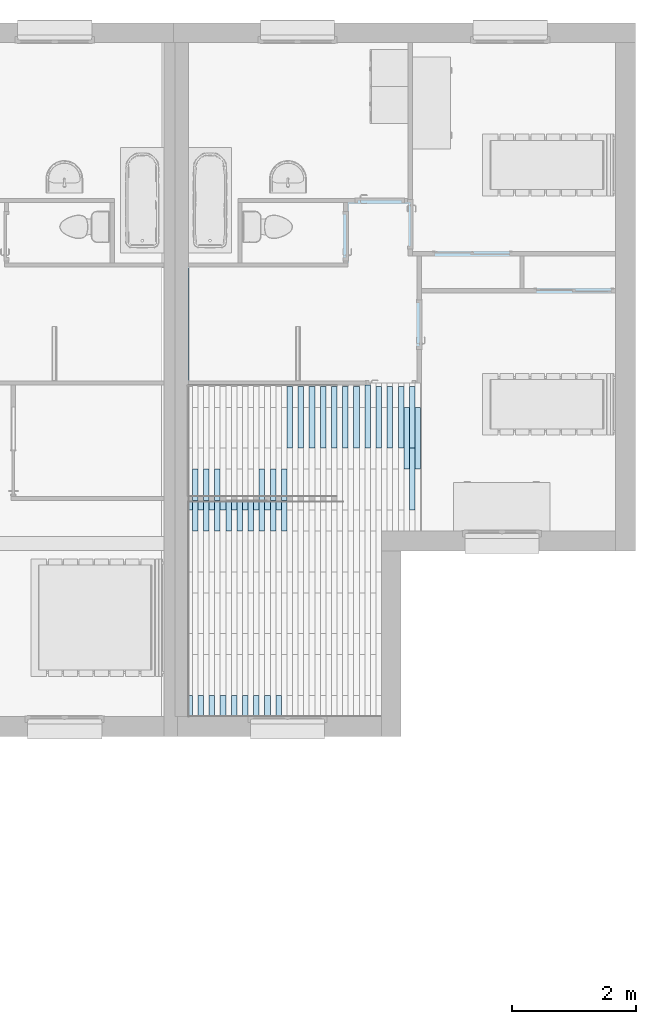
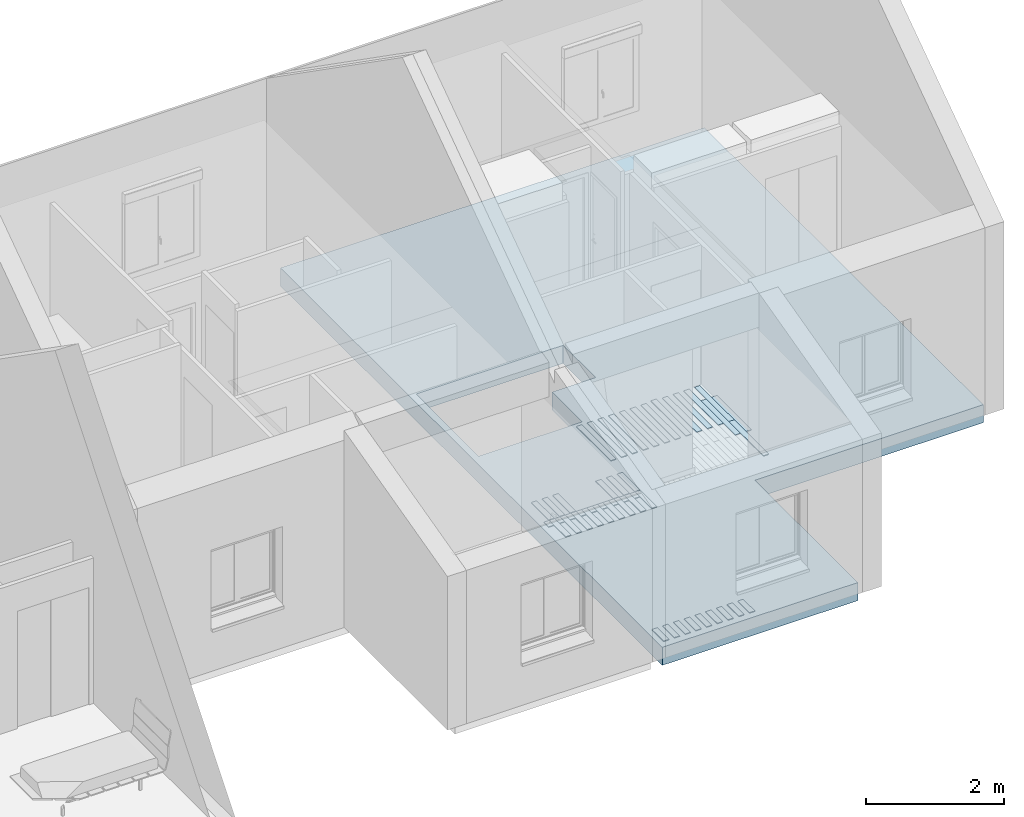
# One storey, part 4 of 50: 49 slabs, 1 opening.
"""IFC2X3 building model written with IfcOpenShell, lengths in metres."""

from ifc_helpers import new_model, entity, si_unit, converted_unit, derived_unit, direction, frame, frame_2d, origin, place, context, subcontext, project, spatial, polyline, rectangle, outline, extrude, material, layer, layer_set, layer_usage, element, save


model = new_model("IFC2X3")

# Units and contexts
model_context = context("Model", 3, precision=1e-05, world=origin(), true_north=direction((6.12303176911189e-17, 1.0)))
context_of_model = context(None, 3, precision=1e-05, world=origin(), true_north=direction((6.12303176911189e-17, 1.0)))
body_context = subcontext(model_context, "Body", "Model", "MODEL_VIEW")
ifc_project = project(units=[si_unit("LENGTHUNIT", "METRE"), si_unit("AREAUNIT", "SQUARE_METRE"), si_unit("VOLUMEUNIT", "CUBIC_METRE"), converted_unit("PLANEANGLEUNIT", "DEGREE", entity("IfcRatioMeasure", 0.0174532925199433), si_unit("PLANEANGLEUNIT", "RADIAN"), dimensions=[0, 0, 0, 0, 0, 0, 0]), si_unit("MASSUNIT", "GRAM", prefix="KILO"), si_unit("TIMEUNIT", "SECOND"), si_unit("FREQUENCYUNIT", "HERTZ"), si_unit("THERMODYNAMICTEMPERATUREUNIT", "DEGREE_CELSIUS"), derived_unit("THERMALTRANSMITTANCEUNIT", [(si_unit("MASSUNIT", "GRAM", prefix="KILO"), 1), (si_unit("THERMODYNAMICTEMPERATUREUNIT", "KELVIN"), -1), (si_unit("TIMEUNIT", "SECOND"), -3)]), derived_unit("VOLUMETRICFLOWRATEUNIT", [(si_unit("LENGTHUNIT", "METRE"), 3), (si_unit("TIMEUNIT", "SECOND"), -1)]), si_unit("ELECTRICCURRENTUNIT", "AMPERE"), si_unit("ELECTRICVOLTAGEUNIT", "VOLT"), si_unit("POWERUNIT", "WATT"), si_unit("FORCEUNIT", "NEWTON", prefix="KILO"), si_unit("ILLUMINANCEUNIT", "LUX"), si_unit("LUMINOUSFLUXUNIT", "LUMEN"), si_unit("LUMINOUSINTENSITYUNIT", "CANDELA"), si_unit("PRESSUREUNIT", "PASCAL")], contexts=[model_context, context_of_model])

# Site, building, storey
site_placement = place(None, origin())
site = spatial("IfcSite", under=ifc_project, at=site_placement, Name="Surface", CompositionType="ELEMENT")
building_placement = place(site_placement, origin())
building = spatial("IfcBuilding", under=site, at=building_placement, CompositionType="ELEMENT")
storey_placement = place(building_placement, frame((0.0, 0.0, 2.82)))
storey = spatial("IfcBuildingStorey", under=building, at=storey_placement, Name="ETAGE", CompositionType="ELEMENT", Elevation=2.82)

# Slab, opening
ifc_material_1 = material(Name="Béton")
ifc_layer_1 = layer(ifc_material_1, 0.2)
ifc_material_2 = material(Name="Isolant")
ifc_layer_2 = layer(ifc_material_2, 0.1)
ifc_material_3 = material(Name="Plastique - Blanc")
ifc_layer_3 = layer(ifc_material_3, 0.02)
ifc_layer_set_1 = layer_set([ifc_layer_1, ifc_layer_2, ifc_layer_3], Name="Sol:Dalle Béton - 20 cm  + FAUX PLAFOND")
ifc_layer_usage_1 = layer_usage(ifc_layer_set_1, "AXIS3", "POSITIVE", 0.0)
slab_1_placement = place(storey_placement, frame((83.8267857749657, 81.1575239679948, -0.3)))
slab_1 = element("IfcSlab", 1, at=slab_1_placement, inside=storey, material=ifc_layer_usage_1, Name="Sol:Dalle Béton - 20 cm  + FAUX PLAFOND", ObjectType="Sol:Dalle Béton - 20 cm  + FAUX PLAFOND", PredefinedType="FLOOR", context=body_context, shape_type="SweptSolid", body=[
    extrude(outline(polyline([(-3.55413147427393, 5.545), (-3.55413147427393, -5.545), (-0.274131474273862, -5.54499999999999), (-0.274131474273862, -2.55499999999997), (3.55413147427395, -2.55499999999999), (3.55413147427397, 5.545), (-3.55413147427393, 5.545)])), frame((3.55413147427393, 5.545, 0.32)), (0.0, 0.0, -1.0), 0.32),
])
opening_placement = place(storey_placement, frame((83.8267857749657, 81.1575239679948, -0.3)))
element("IfcOpeningElement", 2, at=opening_placement, cuts=slab_1, ObjectType="Opening", context=body_context, shape_type="SweptSolid", body=[
    extrude(outline(polyline([(3.44496571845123, 1.7966805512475), (0.977465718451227, 1.7966805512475), (0.977465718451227, 0.852480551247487), (1.70746571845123, 0.852480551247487), (1.70746571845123, -0.0199999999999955), (3.44496571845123, -0.0199999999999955), (3.44496571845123, 1.7966805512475)])), frame((3.55413147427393, 5.545, 0.32), z_axis=(0.0, 0.0, -1.0), x_axis=(-1.0, 0.0, 0.0)), (0.0, 0.0, 1.0), 0.32),
])

# Slabs
ifc_material_4 = material(Name="PARQUET BAMBOU")
ifc_layer_4 = layer(ifc_material_4, 0.01)
ifc_layer_set_2 = layer_set([ifc_layer_4], Name="Sol:LAME DE BAMBOU")
ifc_layer_usage_2 = layer_usage(ifc_layer_set_2, "AXIS3", "POSITIVE", 0.0)
slab_2_placement = place(storey_placement, origin())
element("IfcSlab", 3, at=slab_2_placement, inside=storey, material=ifc_layer_usage_2, Name="Sol:LAME DE BAMBOU", ObjectType="Sol:LAME DE BAMBOU", PredefinedType="FLOOR", context=body_context, shape_type="SweptSolid", body=[
    extrude(rectangle(XDim=0.479580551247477, YDim=0.0899999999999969, at=frame_2d((8.65973959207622e-15, 8.66320903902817e-15), x_axis=(1.0, 0.0))), frame((84.0360898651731, 84.4873142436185, 0.05), z_axis=(0.0, 0.0, -1.0), x_axis=(0.0, 1.0, 0.0)), (0.0, 0.0, 1.0), 0.00999999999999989),
])
ifc_layer_usage_3 = layer_usage(ifc_layer_set_2, "AXIS3", "POSITIVE", 0.0)
slab_3_placement = place(storey_placement, origin())
element("IfcSlab", 4, at=slab_3_placement, inside=storey, material=ifc_layer_usage_3, Name="Sol:LAME DE BAMBOU", ObjectType="Sol:LAME DE BAMBOU", PredefinedType="FLOOR", context=body_context, shape_type="SweptSolid", body=[
    extrude(rectangle(XDim=0.339999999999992, YDim=0.0899999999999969, at=frame_2d((0.0, 8.66320903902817e-15), x_axis=(1.0, 0.0))), frame((84.1260898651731, 81.4175239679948, 0.05), z_axis=(0.0, 0.0, -1.0), x_axis=(0.0, 1.0, 0.0)), (0.0, 0.0, 1.0), 0.00999999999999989),
])
ifc_layer_usage_4 = layer_usage(ifc_layer_set_2, "AXIS3", "POSITIVE", 0.0)
slab_4_placement = place(storey_placement, origin())
element("IfcSlab", 5, at=slab_4_placement, inside=storey, material=ifc_layer_usage_4, Name="Sol:LAME DE BAMBOU", ObjectType="Sol:LAME DE BAMBOU", PredefinedType="FLOOR", context=body_context, shape_type="SweptSolid", body=[
    extrude(rectangle(XDim=0.139570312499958, YDim=0.0899999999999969, at=frame_2d((8.65973959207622e-15, 8.66320903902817e-15), x_axis=(1.0, 0.0))), frame((84.1260898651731, 84.6573091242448, 0.05), z_axis=(0.0, 0.0, -1.0), x_axis=(0.0, 1.0, 0.0)), (0.0, 0.0, 1.0), 0.00999999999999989),
])
ifc_layer_usage_5 = layer_usage(ifc_layer_set_2, "AXIS3", "POSITIVE", 0.0)
slab_5_placement = place(storey_placement, origin())
element("IfcSlab", 6, at=slab_5_placement, inside=storey, material=ifc_layer_usage_5, Name="Sol:LAME DE BAMBOU", ObjectType="Sol:LAME DE BAMBOU", PredefinedType="FLOOR", context=body_context, shape_type="SweptSolid", body=[
    extrude(rectangle(XDim=0.479580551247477, YDim=0.0899999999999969, at=frame_2d((8.65973959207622e-15, -8.66320903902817e-15), x_axis=(1.0, 0.0))), frame((84.2160898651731, 84.4873142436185, 0.05), z_axis=(0.0, 0.0, -1.0), x_axis=(0.0, 1.0, 0.0)), (0.0, 0.0, 1.0), 0.00999999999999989),
])
ifc_layer_usage_6 = layer_usage(ifc_layer_set_2, "AXIS3", "POSITIVE", 0.0)
slab_6_placement = place(storey_placement, origin())
element("IfcSlab", 7, at=slab_6_placement, inside=storey, material=ifc_layer_usage_6, Name="Sol:LAME DE BAMBOU", ObjectType="Sol:LAME DE BAMBOU", PredefinedType="FLOOR", context=body_context, shape_type="SweptSolid", body=[
    extrude(rectangle(XDim=0.339999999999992, YDim=0.0899999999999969, at=frame_2d((0.0, 8.66320903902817e-15), x_axis=(1.0, 0.0))), frame((84.3060898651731, 81.4175239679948, 0.05), z_axis=(0.0, 0.0, -1.0), x_axis=(0.0, 1.0, 0.0)), (0.0, 0.0, 1.0), 0.00999999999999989),
])
ifc_layer_usage_7 = layer_usage(ifc_layer_set_2, "AXIS3", "POSITIVE", 0.0)
slab_7_placement = place(storey_placement, origin())
element("IfcSlab", 8, at=slab_7_placement, inside=storey, material=ifc_layer_usage_7, Name="Sol:LAME DE BAMBOU", ObjectType="Sol:LAME DE BAMBOU", PredefinedType="FLOOR", context=body_context, shape_type="SweptSolid", body=[
    extrude(rectangle(XDim=0.139570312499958, YDim=0.0899999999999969, at=frame_2d((8.65973959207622e-15, 8.66320903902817e-15), x_axis=(1.0, 0.0))), frame((84.3060898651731, 84.6573091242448, 0.05), z_axis=(0.0, 0.0, -1.0), x_axis=(0.0, 1.0, 0.0)), (0.0, 0.0, 1.0), 0.00999999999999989),
])
ifc_layer_usage_8 = layer_usage(ifc_layer_set_2, "AXIS3", "POSITIVE", 0.0)
slab_8_placement = place(storey_placement, origin())
element("IfcSlab", 9, at=slab_8_placement, inside=storey, material=ifc_layer_usage_8, Name="Sol:LAME DE BAMBOU", ObjectType="Sol:LAME DE BAMBOU", PredefinedType="FLOOR", context=body_context, shape_type="SweptSolid", body=[
    extrude(rectangle(XDim=0.479580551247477, YDim=0.0899999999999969, at=frame_2d((8.65973959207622e-15, 8.66320903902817e-15), x_axis=(1.0, 0.0))), frame((84.3960898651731, 84.4873142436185, 0.05), z_axis=(0.0, 0.0, -1.0), x_axis=(0.0, 1.0, 0.0)), (0.0, 0.0, 1.0), 0.00999999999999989),
])
ifc_layer_usage_9 = layer_usage(ifc_layer_set_2, "AXIS3", "POSITIVE", 0.0)
slab_9_placement = place(storey_placement, origin())
element("IfcSlab", 10, at=slab_9_placement, inside=storey, material=ifc_layer_usage_9, Name="Sol:LAME DE BAMBOU", ObjectType="Sol:LAME DE BAMBOU", PredefinedType="FLOOR", context=body_context, shape_type="SweptSolid", body=[
    extrude(rectangle(XDim=0.339999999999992, YDim=0.0899999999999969, at=frame_2d((0.0, 8.66320903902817e-15), x_axis=(1.0, 0.0))), frame((84.4860898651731, 81.4175239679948, 0.05), z_axis=(0.0, 0.0, -1.0), x_axis=(0.0, 1.0, 0.0)), (0.0, 0.0, 1.0), 0.00999999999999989),
])
ifc_layer_usage_10 = layer_usage(ifc_layer_set_2, "AXIS3", "POSITIVE", 0.0)
slab_10_placement = place(storey_placement, origin())
element("IfcSlab", 11, at=slab_10_placement, inside=storey, material=ifc_layer_usage_10, Name="Sol:LAME DE BAMBOU", ObjectType="Sol:LAME DE BAMBOU", PredefinedType="FLOOR", context=body_context, shape_type="SweptSolid", body=[
    extrude(rectangle(XDim=0.139570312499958, YDim=0.0899999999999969, at=frame_2d((8.65973959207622e-15, 8.66320903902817e-15), x_axis=(1.0, 0.0))), frame((84.4860898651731, 84.6573091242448, 0.05), z_axis=(0.0, 0.0, -1.0), x_axis=(0.0, 1.0, 0.0)), (0.0, 0.0, 1.0), 0.00999999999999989),
])
ifc_layer_usage_11 = layer_usage(ifc_layer_set_2, "AXIS3", "POSITIVE", 0.0)
slab_11_placement = place(storey_placement, origin())
element("IfcSlab", 12, at=slab_11_placement, inside=storey, material=ifc_layer_usage_11, Name="Sol:LAME DE BAMBOU", ObjectType="Sol:LAME DE BAMBOU", PredefinedType="FLOOR", context=body_context, shape_type="SweptSolid", body=[
    extrude(rectangle(XDim=0.479580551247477, YDim=0.0899999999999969, at=frame_2d((8.65973959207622e-15, -8.66320903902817e-15), x_axis=(1.0, 0.0))), frame((84.5760898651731, 84.4873142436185, 0.05), z_axis=(0.0, 0.0, -1.0), x_axis=(0.0, 1.0, 0.0)), (0.0, 0.0, 1.0), 0.00999999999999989),
])
ifc_layer_usage_12 = layer_usage(ifc_layer_set_2, "AXIS3", "POSITIVE", 0.0)
slab_12_placement = place(storey_placement, origin())
element("IfcSlab", 13, at=slab_12_placement, inside=storey, material=ifc_layer_usage_12, Name="Sol:LAME DE BAMBOU", ObjectType="Sol:LAME DE BAMBOU", PredefinedType="FLOOR", context=body_context, shape_type="SweptSolid", body=[
    extrude(rectangle(XDim=0.339999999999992, YDim=0.0899999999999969, at=frame_2d((0.0, 8.66320903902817e-15), x_axis=(1.0, 0.0))), frame((84.6660898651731, 81.4175239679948, 0.05), z_axis=(0.0, 0.0, -1.0), x_axis=(0.0, 1.0, 0.0)), (0.0, 0.0, 1.0), 0.00999999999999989),
])
ifc_layer_usage_13 = layer_usage(ifc_layer_set_2, "AXIS3", "POSITIVE", 0.0)
slab_13_placement = place(storey_placement, origin())
element("IfcSlab", 14, at=slab_13_placement, inside=storey, material=ifc_layer_usage_13, Name="Sol:LAME DE BAMBOU", ObjectType="Sol:LAME DE BAMBOU", PredefinedType="FLOOR", context=body_context, shape_type="SweptSolid", body=[
    extrude(rectangle(XDim=0.139570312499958, YDim=0.0899999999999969, at=frame_2d((8.65973959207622e-15, 8.66320903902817e-15), x_axis=(1.0, 0.0))), frame((84.6660898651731, 84.6573091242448, 0.05), z_axis=(0.0, 0.0, -1.0), x_axis=(0.0, 1.0, 0.0)), (0.0, 0.0, 1.0), 0.00999999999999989),
])
ifc_layer_usage_14 = layer_usage(ifc_layer_set_2, "AXIS3", "POSITIVE", 0.0)
slab_14_placement = place(storey_placement, origin())
element("IfcSlab", 15, at=slab_14_placement, inside=storey, material=ifc_layer_usage_14, Name="Sol:LAME DE BAMBOU", ObjectType="Sol:LAME DE BAMBOU", PredefinedType="FLOOR", context=body_context, shape_type="SweptSolid", body=[
    extrude(rectangle(XDim=0.479580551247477, YDim=0.0899999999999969, at=frame_2d((8.65973959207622e-15, 8.66320903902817e-15), x_axis=(1.0, 0.0))), frame((84.7560898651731, 84.4873142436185, 0.05), z_axis=(0.0, 0.0, -1.0), x_axis=(0.0, 1.0, 0.0)), (0.0, 0.0, 1.0), 0.00999999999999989),
])
ifc_layer_usage_15 = layer_usage(ifc_layer_set_2, "AXIS3", "POSITIVE", 0.0)
slab_15_placement = place(storey_placement, origin())
element("IfcSlab", 16, at=slab_15_placement, inside=storey, material=ifc_layer_usage_15, Name="Sol:LAME DE BAMBOU", ObjectType="Sol:LAME DE BAMBOU", PredefinedType="FLOOR", context=body_context, shape_type="SweptSolid", body=[
    extrude(rectangle(XDim=0.339999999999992, YDim=0.0899999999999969, at=frame_2d((0.0, 8.66320903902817e-15), x_axis=(1.0, 0.0))), frame((84.8460898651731, 81.4175239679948, 0.05), z_axis=(0.0, 0.0, -1.0), x_axis=(0.0, 1.0, 0.0)), (0.0, 0.0, 1.0), 0.00999999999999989),
])
ifc_layer_usage_16 = layer_usage(ifc_layer_set_2, "AXIS3", "POSITIVE", 0.0)
slab_16_placement = place(storey_placement, origin())
element("IfcSlab", 17, at=slab_16_placement, inside=storey, material=ifc_layer_usage_16, Name="Sol:LAME DE BAMBOU", ObjectType="Sol:LAME DE BAMBOU", PredefinedType="FLOOR", context=body_context, shape_type="SweptSolid", body=[
    extrude(rectangle(XDim=0.139570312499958, YDim=0.0899999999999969, at=frame_2d((8.65973959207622e-15, 8.66320903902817e-15), x_axis=(1.0, 0.0))), frame((84.8460898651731, 84.6573091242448, 0.05), z_axis=(0.0, 0.0, -1.0), x_axis=(0.0, 1.0, 0.0)), (0.0, 0.0, 1.0), 0.00999999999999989),
])
ifc_layer_usage_17 = layer_usage(ifc_layer_set_2, "AXIS3", "POSITIVE", 0.0)
slab_17_placement = place(storey_placement, origin())
element("IfcSlab", 18, at=slab_17_placement, inside=storey, material=ifc_layer_usage_17, Name="Sol:LAME DE BAMBOU", ObjectType="Sol:LAME DE BAMBOU", PredefinedType="FLOOR", context=body_context, shape_type="SweptSolid", body=[
    extrude(rectangle(XDim=0.479580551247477, YDim=0.0899999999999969, at=frame_2d((8.65973959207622e-15, -8.66320903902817e-15), x_axis=(1.0, 0.0))), frame((84.9360898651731, 84.4873142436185, 0.05), z_axis=(0.0, 0.0, -1.0), x_axis=(0.0, 1.0, 0.0)), (0.0, 0.0, 1.0), 0.00999999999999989),
])
ifc_layer_usage_18 = layer_usage(ifc_layer_set_2, "AXIS3", "POSITIVE", 0.0)
slab_18_placement = place(storey_placement, origin())
element("IfcSlab", 19, at=slab_18_placement, inside=storey, material=ifc_layer_usage_18, Name="Sol:LAME DE BAMBOU", ObjectType="Sol:LAME DE BAMBOU", PredefinedType="FLOOR", context=body_context, shape_type="SweptSolid", body=[
    extrude(rectangle(XDim=0.339999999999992, YDim=0.0899999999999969, at=frame_2d((0.0, 8.66320903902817e-15), x_axis=(1.0, 0.0))), frame((85.026089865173, 81.4175239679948, 0.05), z_axis=(0.0, 0.0, -1.0), x_axis=(0.0, 1.0, 0.0)), (0.0, 0.0, 1.0), 0.00999999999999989),
])
ifc_layer_usage_19 = layer_usage(ifc_layer_set_2, "AXIS3", "POSITIVE", 0.0)
slab_19_placement = place(storey_placement, origin())
element("IfcSlab", 20, at=slab_19_placement, inside=storey, material=ifc_layer_usage_19, Name="Sol:LAME DE BAMBOU", ObjectType="Sol:LAME DE BAMBOU", PredefinedType="FLOOR", context=body_context, shape_type="SweptSolid", body=[
    extrude(rectangle(XDim=0.139570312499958, YDim=0.0899999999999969, at=frame_2d((8.65973959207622e-15, 8.66320903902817e-15), x_axis=(1.0, 0.0))), frame((85.026089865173, 84.6573091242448, 0.05), z_axis=(0.0, 0.0, -1.0), x_axis=(0.0, 1.0, 0.0)), (0.0, 0.0, 1.0), 0.00999999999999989),
])
ifc_layer_usage_20 = layer_usage(ifc_layer_set_2, "AXIS3", "POSITIVE", 0.0)
slab_20_placement = place(storey_placement, origin())
element("IfcSlab", 21, at=slab_20_placement, inside=storey, material=ifc_layer_usage_20, Name="Sol:LAME DE BAMBOU", ObjectType="Sol:LAME DE BAMBOU", PredefinedType="FLOOR", context=body_context, shape_type="SweptSolid", body=[
    extrude(rectangle(XDim=0.479580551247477, YDim=0.0899999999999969, at=frame_2d((8.65973959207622e-15, 8.66320903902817e-15), x_axis=(1.0, 0.0))), frame((85.116089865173, 84.4873142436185, 0.05), z_axis=(0.0, 0.0, -1.0), x_axis=(0.0, 1.0, 0.0)), (0.0, 0.0, 1.0), 0.00999999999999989),
])
ifc_layer_usage_21 = layer_usage(ifc_layer_set_2, "AXIS3", "POSITIVE", 0.0)
slab_21_placement = place(storey_placement, origin())
element("IfcSlab", 22, at=slab_21_placement, inside=storey, material=ifc_layer_usage_21, Name="Sol:LAME DE BAMBOU", ObjectType="Sol:LAME DE BAMBOU", PredefinedType="FLOOR", context=body_context, shape_type="SweptSolid", body=[
    extrude(rectangle(XDim=0.339999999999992, YDim=0.0899999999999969, at=frame_2d((0.0, 8.66320903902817e-15), x_axis=(1.0, 0.0))), frame((85.206089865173, 81.4175239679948, 0.05), z_axis=(0.0, 0.0, -1.0), x_axis=(0.0, 1.0, 0.0)), (0.0, 0.0, 1.0), 0.00999999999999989),
])
ifc_layer_usage_22 = layer_usage(ifc_layer_set_2, "AXIS3", "POSITIVE", 0.0)
slab_22_placement = place(storey_placement, origin())
element("IfcSlab", 23, at=slab_22_placement, inside=storey, material=ifc_layer_usage_22, Name="Sol:LAME DE BAMBOU", ObjectType="Sol:LAME DE BAMBOU", PredefinedType="FLOOR", context=body_context, shape_type="SweptSolid", body=[
    extrude(rectangle(XDim=0.139570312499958, YDim=0.0899999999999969, at=frame_2d((8.65973959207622e-15, 8.66320903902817e-15), x_axis=(1.0, 0.0))), frame((85.206089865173, 84.6573091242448, 0.05), z_axis=(0.0, 0.0, -1.0), x_axis=(0.0, 1.0, 0.0)), (0.0, 0.0, 1.0), 0.00999999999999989),
])
ifc_layer_usage_23 = layer_usage(ifc_layer_set_2, "AXIS3", "POSITIVE", 0.0)
slab_23_placement = place(storey_placement, origin())
element("IfcSlab", 24, at=slab_23_placement, inside=storey, material=ifc_layer_usage_23, Name="Sol:LAME DE BAMBOU", ObjectType="Sol:LAME DE BAMBOU", PredefinedType="FLOOR", context=body_context, shape_type="SweptSolid", body=[
    extrude(rectangle(XDim=0.479580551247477, YDim=0.0899999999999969, at=frame_2d((8.65973959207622e-15, -8.66320903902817e-15), x_axis=(1.0, 0.0))), frame((85.2960898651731, 84.4873142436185, 0.05), z_axis=(0.0, 0.0, -1.0), x_axis=(0.0, 1.0, 0.0)), (0.0, 0.0, 1.0), 0.00999999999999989),
])
ifc_layer_usage_24 = layer_usage(ifc_layer_set_2, "AXIS3", "POSITIVE", 0.0)
slab_24_placement = place(storey_placement, origin())
element("IfcSlab", 25, at=slab_24_placement, inside=storey, material=ifc_layer_usage_24, Name="Sol:LAME DE BAMBOU", ObjectType="Sol:LAME DE BAMBOU", PredefinedType="FLOOR", context=body_context, shape_type="SweptSolid", body=[
    extrude(rectangle(XDim=0.339999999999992, YDim=0.0899999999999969, at=frame_2d((0.0, 8.66320903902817e-15), x_axis=(1.0, 0.0))), frame((85.386089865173, 81.4175239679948, 0.05), z_axis=(0.0, 0.0, -1.0), x_axis=(0.0, 1.0, 0.0)), (0.0, 0.0, 1.0), 0.00999999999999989),
])
ifc_layer_usage_25 = layer_usage(ifc_layer_set_2, "AXIS3", "POSITIVE", 0.0)
slab_25_placement = place(storey_placement, origin())
element("IfcSlab", 26, at=slab_25_placement, inside=storey, material=ifc_layer_usage_25, Name="Sol:LAME DE BAMBOU", ObjectType="Sol:LAME DE BAMBOU", PredefinedType="FLOOR", context=body_context, shape_type="SweptSolid", body=[
    extrude(rectangle(XDim=0.139570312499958, YDim=0.0899999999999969, at=frame_2d((8.65973959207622e-15, 8.66320903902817e-15), x_axis=(1.0, 0.0))), frame((85.386089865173, 84.6573091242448, 0.05), z_axis=(0.0, 0.0, -1.0), x_axis=(0.0, 1.0, 0.0)), (0.0, 0.0, 1.0), 0.00999999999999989),
])
ifc_layer_usage_26 = layer_usage(ifc_layer_set_2, "AXIS3", "POSITIVE", 0.0)
slab_26_placement = place(storey_placement, origin())
element("IfcSlab", 27, at=slab_26_placement, inside=storey, material=ifc_layer_usage_26, Name="Sol:LAME DE BAMBOU", ObjectType="Sol:LAME DE BAMBOU", PredefinedType="FLOOR", context=body_context, shape_type="SweptSolid", body=[
    extrude(rectangle(XDim=0.479580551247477, YDim=0.0899999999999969, at=frame_2d((8.65973959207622e-15, 8.66320903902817e-15), x_axis=(1.0, 0.0))), frame((85.476089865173, 84.4873142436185, 0.05), z_axis=(0.0, 0.0, -1.0), x_axis=(0.0, 1.0, 0.0)), (0.0, 0.0, 1.0), 0.00999999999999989),
])
ifc_layer_usage_27 = layer_usage(ifc_layer_set_2, "AXIS3", "POSITIVE", 0.0)
slab_27_placement = place(storey_placement, origin())
element("IfcSlab", 28, at=slab_27_placement, inside=storey, material=ifc_layer_usage_27, Name="Sol:LAME DE BAMBOU", ObjectType="Sol:LAME DE BAMBOU", PredefinedType="FLOOR", context=body_context, shape_type="SweptSolid", body=[
    extrude(rectangle(XDim=0.999999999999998, YDim=0.0899999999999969, at=frame_2d((8.68749516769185e-15, 8.66320903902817e-15), x_axis=(1.0, 0.0))), frame((86.466089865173, 86.0875239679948, 0.05), z_axis=(0.0, 0.0, -1.0), x_axis=(0.0, 1.0, 0.0)), (0.0, 0.0, 1.0), 0.00999999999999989),
])
ifc_layer_usage_28 = layer_usage(ifc_layer_set_2, "AXIS3", "POSITIVE", 0.0)
slab_28_placement = place(storey_placement, origin())
element("IfcSlab", 29, at=slab_28_placement, inside=storey, material=ifc_layer_usage_28, Name="Sol:LAME DE BAMBOU", ObjectType="Sol:LAME DE BAMBOU", PredefinedType="FLOOR", context=body_context, shape_type="SweptSolid", body=[
    extrude(rectangle(XDim=0.999999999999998, YDim=0.0899999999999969, at=frame_2d((8.68749516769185e-15, 8.66320903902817e-15), x_axis=(1.0, 0.0))), frame((86.646089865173, 86.0875239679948, 0.05), z_axis=(0.0, 0.0, -1.0), x_axis=(0.0, 1.0, 0.0)), (0.0, 0.0, 1.0), 0.00999999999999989),
])
ifc_layer_usage_29 = layer_usage(ifc_layer_set_2, "AXIS3", "POSITIVE", 0.0)
slab_29_placement = place(storey_placement, origin())
element("IfcSlab", 30, at=slab_29_placement, inside=storey, material=ifc_layer_usage_29, Name="Sol:LAME DE BAMBOU", ObjectType="Sol:LAME DE BAMBOU", PredefinedType="FLOOR", context=body_context, shape_type="SweptSolid", body=[
    extrude(rectangle(XDim=1.01999999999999, YDim=0.0899999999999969, at=frame_2d((8.65973959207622e-15, 8.66320903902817e-15), x_axis=(1.0, 0.0))), frame((86.826089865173, 86.0975239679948, 0.05), z_axis=(0.0, 0.0, -1.0), x_axis=(0.0, 1.0, 0.0)), (0.0, 0.0, 1.0), 0.00999999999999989),
])
ifc_layer_usage_30 = layer_usage(ifc_layer_set_2, "AXIS3", "POSITIVE", 0.0)
slab_30_placement = place(storey_placement, origin())
element("IfcSlab", 31, at=slab_30_placement, inside=storey, material=ifc_layer_usage_30, Name="Sol:LAME DE BAMBOU", ObjectType="Sol:LAME DE BAMBOU", PredefinedType="FLOOR", context=body_context, shape_type="SweptSolid", body=[
    extrude(rectangle(XDim=0.999999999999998, YDim=0.0899999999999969, at=frame_2d((8.68749516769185e-15, 8.66320903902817e-15), x_axis=(1.0, 0.0))), frame((87.006089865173, 86.0875239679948, 0.05), z_axis=(0.0, 0.0, -1.0), x_axis=(0.0, 1.0, 0.0)), (0.0, 0.0, 1.0), 0.00999999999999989),
])
ifc_layer_usage_31 = layer_usage(ifc_layer_set_2, "AXIS3", "POSITIVE", 0.0)
slab_31_placement = place(storey_placement, origin())
element("IfcSlab", 32, at=slab_31_placement, inside=storey, material=ifc_layer_usage_31, Name="Sol:LAME DE BAMBOU", ObjectType="Sol:LAME DE BAMBOU", PredefinedType="FLOOR", context=body_context, shape_type="SweptSolid", body=[
    extrude(rectangle(XDim=0.999999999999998, YDim=0.0899999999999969, at=frame_2d((8.68749516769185e-15, 8.66320903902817e-15), x_axis=(1.0, 0.0))), frame((87.1861607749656, 86.0875239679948, 0.05), z_axis=(0.0, 0.0, -1.0), x_axis=(0.0, 1.0, 0.0)), (0.0, 0.0, 1.0), 0.00999999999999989),
])
ifc_layer_usage_32 = layer_usage(ifc_layer_set_2, "AXIS3", "POSITIVE", 0.0)
slab_32_placement = place(storey_placement, origin())
element("IfcSlab", 33, at=slab_32_placement, inside=storey, material=ifc_layer_usage_32, Name="Sol:LAME DE BAMBOU", ObjectType="Sol:LAME DE BAMBOU", PredefinedType="FLOOR", context=body_context, shape_type="SweptSolid", body=[
    extrude(rectangle(XDim=0.999999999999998, YDim=0.0899999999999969, at=frame_2d((8.68749516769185e-15, -8.66320903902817e-15), x_axis=(1.0, 0.0))), frame((87.3661607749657, 86.0875239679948, 0.05), z_axis=(0.0, 0.0, -1.0), x_axis=(0.0, 1.0, 0.0)), (0.0, 0.0, 1.0), 0.00999999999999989),
])
ifc_layer_usage_33 = layer_usage(ifc_layer_set_2, "AXIS3", "POSITIVE", 0.0)
slab_33_placement = place(storey_placement, origin())
element("IfcSlab", 34, at=slab_33_placement, inside=storey, material=ifc_layer_usage_33, Name="Sol:LAME DE BAMBOU", ObjectType="Sol:LAME DE BAMBOU", PredefinedType="FLOOR", context=body_context, shape_type="SweptSolid", body=[
    extrude(rectangle(XDim=0.999999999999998, YDim=0.0899999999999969, at=frame_2d((8.68749516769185e-15, 8.66320903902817e-15), x_axis=(1.0, 0.0))), frame((87.4561607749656, 85.7475239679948, 0.05), z_axis=(0.0, 0.0, -1.0), x_axis=(0.0, 1.0, 0.0)), (0.0, 0.0, 1.0), 0.00999999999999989),
])
ifc_layer_usage_34 = layer_usage(ifc_layer_set_2, "AXIS3", "POSITIVE", 0.0)
slab_34_placement = place(storey_placement, origin())
element("IfcSlab", 35, at=slab_34_placement, inside=storey, material=ifc_layer_usage_34, Name="Sol:LAME DE BAMBOU", ObjectType="Sol:LAME DE BAMBOU", PredefinedType="FLOOR", context=body_context, shape_type="SweptSolid", body=[
    extrude(rectangle(XDim=0.999999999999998, YDim=0.0899999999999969, at=frame_2d((-8.68749516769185e-15, 8.66320903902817e-15), x_axis=(1.0, 0.0))), frame((87.5461607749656, 85.0875239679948, 0.05), z_axis=(0.0, 0.0, -1.0), x_axis=(0.0, 1.0, 0.0)), (0.0, 0.0, 1.0), 0.00999999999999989),
])
ifc_layer_usage_35 = layer_usage(ifc_layer_set_2, "AXIS3", "POSITIVE", 0.0)
slab_35_placement = place(storey_placement, origin())
element("IfcSlab", 36, at=slab_35_placement, inside=storey, material=ifc_layer_usage_35, Name="Sol:LAME DE BAMBOU", ObjectType="Sol:LAME DE BAMBOU", PredefinedType="FLOOR", context=body_context, shape_type="SweptSolid", body=[
    extrude(rectangle(XDim=0.999999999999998, YDim=0.0899999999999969, at=frame_2d((8.68749516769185e-15, 8.66320903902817e-15), x_axis=(1.0, 0.0))), frame((87.5461607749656, 86.0875239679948, 0.05), z_axis=(0.0, 0.0, -1.0), x_axis=(0.0, 1.0, 0.0)), (0.0, 0.0, 1.0), 0.00999999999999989),
])
ifc_layer_usage_36 = layer_usage(ifc_layer_set_2, "AXIS3", "POSITIVE", 0.0)
slab_36_placement = place(storey_placement, origin())
element("IfcSlab", 37, at=slab_36_placement, inside=storey, material=ifc_layer_usage_36, Name="Sol:LAME DE BAMBOU", ObjectType="Sol:LAME DE BAMBOU", PredefinedType="FLOOR", context=body_context, shape_type="SweptSolid", body=[
    extrude(rectangle(XDim=0.999999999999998, YDim=0.0899999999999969, at=frame_2d((8.68749516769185e-15, 8.66320903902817e-15), x_axis=(1.0, 0.0))), frame((87.6361607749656, 85.7475239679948, 0.05), z_axis=(0.0, 0.0, -1.0), x_axis=(0.0, 1.0, 0.0)), (0.0, 0.0, 1.0), 0.00999999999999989),
])
ifc_layer_usage_37 = layer_usage(ifc_layer_set_2, "AXIS3", "POSITIVE", 0.0)
slab_37_placement = place(storey_placement, origin())
element("IfcSlab", 38, at=slab_37_placement, inside=storey, material=ifc_layer_usage_37, Name="Sol:LAME DE BAMBOU", ObjectType="Sol:LAME DE BAMBOU", PredefinedType="FLOOR", context=body_context, shape_type="SweptSolid", body=[
    extrude(rectangle(XDim=0.339999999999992, YDim=0.0899999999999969, at=frame_2d((0.0, 8.66320903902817e-15), x_axis=(1.0, 0.0))), frame((83.9460898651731, 81.4175239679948, 0.05), z_axis=(0.0, 0.0, -1.0), x_axis=(0.0, 1.0, 0.0)), (0.0, 0.0, 1.0), 0.00999999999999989),
])
ifc_layer_usage_38 = layer_usage(ifc_layer_set_2, "AXIS3", "POSITIVE", 0.0)
slab_38_placement = place(storey_placement, origin())
element("IfcSlab", 39, at=slab_38_placement, inside=storey, material=ifc_layer_usage_38, Name="Sol:LAME DE BAMBOU", ObjectType="Sol:LAME DE BAMBOU", PredefinedType="FLOOR", context=body_context, shape_type="SweptSolid", body=[
    extrude(rectangle(XDim=0.139570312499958, YDim=0.0899999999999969, at=frame_2d((8.65973959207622e-15, 8.66320903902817e-15), x_axis=(1.0, 0.0))), frame((83.9460898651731, 84.6573091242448, 0.05), z_axis=(0.0, 0.0, -1.0), x_axis=(0.0, 1.0, 0.0)), (0.0, 0.0, 1.0), 0.00999999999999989),
])
ifc_layer_usage_39 = layer_usage(ifc_layer_set_2, "AXIS3", "POSITIVE", 0.0)
slab_39_placement = place(storey_placement, origin())
element("IfcSlab", 40, at=slab_39_placement, inside=storey, material=ifc_layer_usage_39, Name="Sol:LAME DE BAMBOU", ObjectType="Sol:LAME DE BAMBOU", PredefinedType="FLOOR", context=body_context, shape_type="SweptSolid", body=[
    extrude(rectangle(XDim=0.999999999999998, YDim=0.0899999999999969, at=frame_2d((8.68749516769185e-15, 8.66320903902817e-15), x_axis=(1.0, 0.0))), frame((86.286089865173, 86.0875239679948, 0.05), z_axis=(0.0, 0.0, -1.0), x_axis=(0.0, 1.0, 0.0)), (0.0, 0.0, 1.0), 0.00999999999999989),
])
ifc_layer_usage_40 = layer_usage(ifc_layer_set_2, "AXIS3", "POSITIVE", 0.0)
slab_40_placement = place(storey_placement, origin())
element("IfcSlab", 41, at=slab_40_placement, inside=storey, material=ifc_layer_usage_40, Name="Sol:LAME DE BAMBOU", ObjectType="Sol:LAME DE BAMBOU", PredefinedType="FLOOR", context=body_context, shape_type="SweptSolid", body=[
    extrude(rectangle(XDim=0.999999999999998, YDim=0.0899999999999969, at=frame_2d((8.68749516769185e-15, 8.66320903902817e-15), x_axis=(1.0, 0.0))), frame((86.106089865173, 86.0875239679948, 0.05), z_axis=(0.0, 0.0, -1.0), x_axis=(0.0, 1.0, 0.0)), (0.0, 0.0, 1.0), 0.00999999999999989),
])
ifc_layer_usage_41 = layer_usage(ifc_layer_set_2, "AXIS3", "POSITIVE", 0.0)
slab_41_placement = place(storey_placement, origin())
element("IfcSlab", 42, at=slab_41_placement, inside=storey, material=ifc_layer_usage_41, Name="Sol:LAME DE BAMBOU", ObjectType="Sol:LAME DE BAMBOU", PredefinedType="FLOOR", context=body_context, shape_type="SweptSolid", body=[
    extrude(rectangle(XDim=0.999999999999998, YDim=0.0899999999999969, at=frame_2d((8.68749516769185e-15, 8.66320903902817e-15), x_axis=(1.0, 0.0))), frame((85.926089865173, 86.0875239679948, 0.05), z_axis=(0.0, 0.0, -1.0), x_axis=(0.0, 1.0, 0.0)), (0.0, 0.0, 1.0), 0.00999999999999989),
])
ifc_layer_usage_42 = layer_usage(ifc_layer_set_2, "AXIS3", "POSITIVE", 0.0)
slab_42_placement = place(storey_placement, origin())
element("IfcSlab", 43, at=slab_42_placement, inside=storey, material=ifc_layer_usage_42, Name="Sol:LAME DE BAMBOU", ObjectType="Sol:LAME DE BAMBOU", PredefinedType="FLOOR", context=body_context, shape_type="SweptSolid", body=[
    extrude(rectangle(XDim=0.999999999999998, YDim=0.0899999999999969, at=frame_2d((8.68749516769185e-15, 8.66320903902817e-15), x_axis=(1.0, 0.0))), frame((85.746089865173, 86.0875239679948, 0.05), z_axis=(0.0, 0.0, -1.0), x_axis=(0.0, 1.0, 0.0)), (0.0, 0.0, 1.0), 0.00999999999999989),
])
ifc_layer_usage_43 = layer_usage(ifc_layer_set_2, "AXIS3", "POSITIVE", 0.0)
slab_43_placement = place(storey_placement, origin())
element("IfcSlab", 44, at=slab_43_placement, inside=storey, material=ifc_layer_usage_43, Name="Sol:LAME DE BAMBOU", ObjectType="Sol:LAME DE BAMBOU", PredefinedType="FLOOR", context=body_context, shape_type="SweptSolid", body=[
    extrude(rectangle(XDim=0.999999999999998, YDim=0.0899999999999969, at=frame_2d((8.68749516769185e-15, 8.66320903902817e-15), x_axis=(1.0, 0.0))), frame((85.566089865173, 86.0875239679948, 0.05), z_axis=(0.0, 0.0, -1.0), x_axis=(0.0, 1.0, 0.0)), (0.0, 0.0, 1.0), 0.00999999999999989),
])
ifc_layer_usage_44 = layer_usage(ifc_layer_set_2, "AXIS3", "POSITIVE", 0.0)
slab_44_placement = place(storey_placement, origin())
element("IfcSlab", 45, at=slab_44_placement, inside=storey, material=ifc_layer_usage_44, Name="Sol:LAME DE BAMBOU", ObjectType="Sol:LAME DE BAMBOU", PredefinedType="FLOOR", context=body_context, shape_type="SweptSolid", body=[
    extrude(rectangle(XDim=0.510000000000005, YDim=0.0899999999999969, at=frame_2d((-8.65973959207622e-15, 8.66320903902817e-15), x_axis=(1.0, 0.0))), frame((85.4760898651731, 84.9925239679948, 0.05), z_axis=(0.0, 0.0, -1.0), x_axis=(0.0, 1.0, 0.0)), (0.0, 0.0, 1.0), 0.00999999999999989),
])
ifc_layer_usage_45 = layer_usage(ifc_layer_set_2, "AXIS3", "POSITIVE", 0.0)
slab_45_placement = place(storey_placement, origin())
element("IfcSlab", 46, at=slab_45_placement, inside=storey, material=ifc_layer_usage_45, Name="Sol:LAME DE BAMBOU", ObjectType="Sol:LAME DE BAMBOU", PredefinedType="FLOOR", context=body_context, shape_type="SweptSolid", body=[
    extrude(rectangle(XDim=0.510000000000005, YDim=0.0899999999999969, at=frame_2d((-8.65973959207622e-15, 8.66320903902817e-15), x_axis=(1.0, 0.0))), frame((85.2960898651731, 84.9925239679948, 0.05), z_axis=(0.0, 0.0, -1.0), x_axis=(0.0, 1.0, 0.0)), (0.0, 0.0, 1.0), 0.00999999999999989),
])
ifc_layer_usage_46 = layer_usage(ifc_layer_set_2, "AXIS3", "POSITIVE", 0.0)
slab_46_placement = place(storey_placement, origin())
element("IfcSlab", 47, at=slab_46_placement, inside=storey, material=ifc_layer_usage_46, Name="Sol:LAME DE BAMBOU", ObjectType="Sol:LAME DE BAMBOU", PredefinedType="FLOOR", context=body_context, shape_type="SweptSolid", body=[
    extrude(rectangle(XDim=0.510000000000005, YDim=0.0899999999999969, at=frame_2d((-8.65973959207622e-15, 8.66320903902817e-15), x_axis=(1.0, 0.0))), frame((85.1160898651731, 84.9925239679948, 0.05), z_axis=(0.0, 0.0, -1.0), x_axis=(0.0, 1.0, 0.0)), (0.0, 0.0, 1.0), 0.00999999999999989),
])
ifc_layer_usage_47 = layer_usage(ifc_layer_set_2, "AXIS3", "POSITIVE", 0.0)
slab_47_placement = place(storey_placement, origin())
element("IfcSlab", 48, at=slab_47_placement, inside=storey, material=ifc_layer_usage_47, Name="Sol:LAME DE BAMBOU", ObjectType="Sol:LAME DE BAMBOU", PredefinedType="FLOOR", context=body_context, shape_type="SweptSolid", body=[
    extrude(rectangle(XDim=0.510000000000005, YDim=0.0899999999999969, at=frame_2d((-8.65973959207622e-15, -8.66320903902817e-15), x_axis=(1.0, 0.0))), frame((84.3960898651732, 84.9925239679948, 0.05), z_axis=(0.0, 0.0, -1.0), x_axis=(0.0, 1.0, 0.0)), (0.0, 0.0, 1.0), 0.00999999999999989),
])
ifc_layer_usage_48 = layer_usage(ifc_layer_set_2, "AXIS3", "POSITIVE", 0.0)
slab_48_placement = place(storey_placement, origin())
element("IfcSlab", 49, at=slab_48_placement, inside=storey, material=ifc_layer_usage_48, Name="Sol:LAME DE BAMBOU", ObjectType="Sol:LAME DE BAMBOU", PredefinedType="FLOOR", context=body_context, shape_type="SweptSolid", body=[
    extrude(rectangle(XDim=0.510000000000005, YDim=0.0899999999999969, at=frame_2d((-8.65973959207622e-15, 8.66320903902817e-15), x_axis=(1.0, 0.0))), frame((84.2160898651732, 84.9925239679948, 0.05), z_axis=(0.0, 0.0, -1.0), x_axis=(0.0, 1.0, 0.0)), (0.0, 0.0, 1.0), 0.00999999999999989),
])
ifc_layer_usage_49 = layer_usage(ifc_layer_set_2, "AXIS3", "POSITIVE", 0.0)
slab_49_placement = place(storey_placement, origin())
element("IfcSlab", 50, at=slab_49_placement, inside=storey, material=ifc_layer_usage_49, Name="Sol:LAME DE BAMBOU", ObjectType="Sol:LAME DE BAMBOU", PredefinedType="FLOOR", context=body_context, shape_type="SweptSolid", body=[
    extrude(rectangle(XDim=0.510000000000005, YDim=0.0899999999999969, at=frame_2d((-8.65973959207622e-15, -8.66320903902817e-15), x_axis=(1.0, 0.0))), frame((84.0360898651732, 84.9925239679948, 0.05), z_axis=(0.0, 0.0, -1.0), x_axis=(0.0, 1.0, 0.0)), (0.0, 0.0, 1.0), 0.00999999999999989),
])

save(model, "model.ifc")
